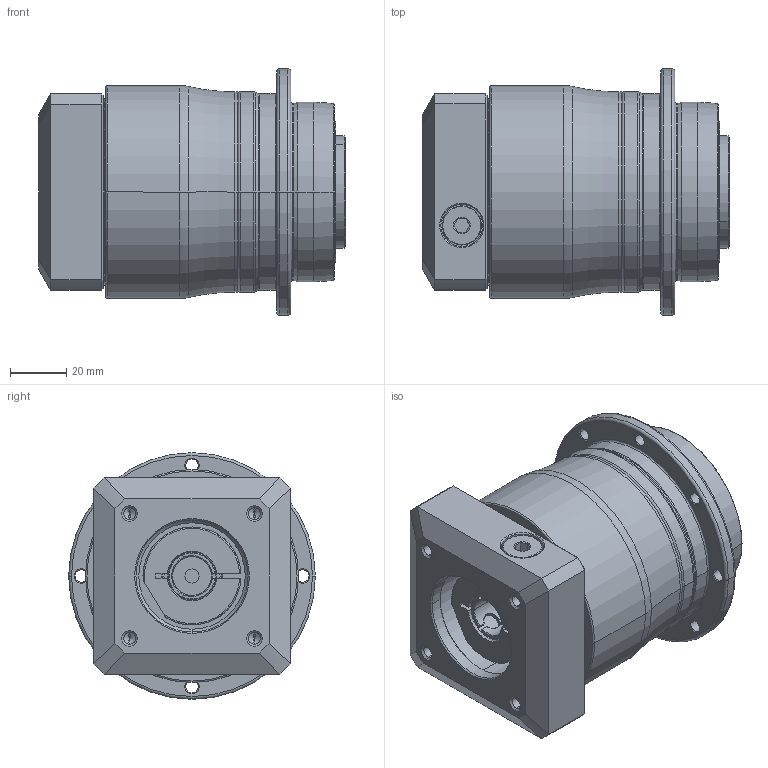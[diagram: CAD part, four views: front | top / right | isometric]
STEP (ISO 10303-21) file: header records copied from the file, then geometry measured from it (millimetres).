
FILE_DESCRIPTION((''),'2;1');
FILE_NAME('AH064_2ST_14-P0409300101_ASM','2016-08-03T',('d01943'),(''),'PRO/ENGINEER BY PARAMETRIC TECHNOLOGY CORPORATION, 2008410','PRO/ENGINEER BY PARAMETRIC TECHNOLOGY CORPORATION, 2008410','');
FILE_SCHEMA(('CONFIG_CONTROL_DESIGN'));
Length unit declared in the file: millimetre
Products named in the file (8): P0278200003; P0359200002; P1317200201; P0409300101; P0503300005; P0912102001; 21711410012; AH064_2ST_14-P0409300101_ASM
Assembly tree (7 placements, depth 2):
  AH064_2ST_14-P0409300101_ASM
    P0278200003
    P0359200002
    P1317200201
    P0409300101
    P0503300005
    P0912102001
    21711410012
Bounding box: 109.5 x 88 x 88 mm (x, y, z)
Volume: 400689.8 mm3; surface area: 84079.4 mm2
Topology: 8 solids, 8 shells, 502 faces, 1138 edges, 668 vertices
Faces by surface type: cylinder 186, cone 152, plane 92, torus 58, bspline 14
Entity records: 18282 total; most frequent: CARTESIAN_POINT 6832, DIRECTION 2565, ORIENTED_EDGE 2192, EDGE_CURVE 1096, AXIS2_PLACEMENT_3D 1078, VERTEX_POINT 668, EDGE_LOOP 590, CIRCLE 575
